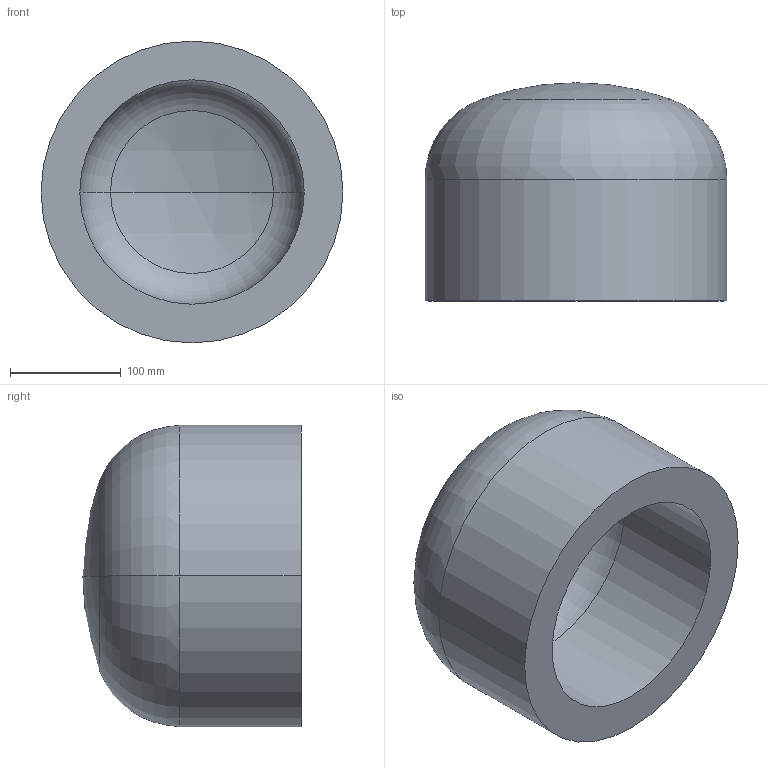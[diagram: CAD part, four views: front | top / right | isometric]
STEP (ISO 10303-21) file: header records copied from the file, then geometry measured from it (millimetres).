
FILE_DESCRIPTION (( 'STEP AP203' ), '1' );
FILE_NAME ('DIN 28013 Korbbogenform_-_Boden DIN 28013 - 273 x 110 - I - s=35.step', '2016-07-01T07:43:59', ( '' ), ( '' ), 'SwSTEP 2.0', 'SolidWorks 2013', '' );
FILE_SCHEMA (( 'CONFIG_CONTROL_DESIGN' ));
Length unit declared in the file: millimetre
Products named in the file (1): DIN 28013 Korbbogenform_-_Boden DIN 28013 - 273 x 110 - I - s=35
Bounding box: 273 x 197.36 x 273 mm (x, y, z)
Volume: 5306333.5 mm3; surface area: 331954.1 mm2
Topology: 1 solids, 1 shells, 13 faces, 24 edges, 14 vertices
Faces by surface type: torus 4, cylinder 4, sphere 4, plane 1
Entity records: 407 total; most frequent: DIRECTION 72, CARTESIAN_POINT 52, ORIENTED_EDGE 48, AXIS2_PLACEMENT_3D 34, EDGE_CURVE 24, CIRCLE 20, EDGE_LOOP 14, VERTEX_POINT 14
